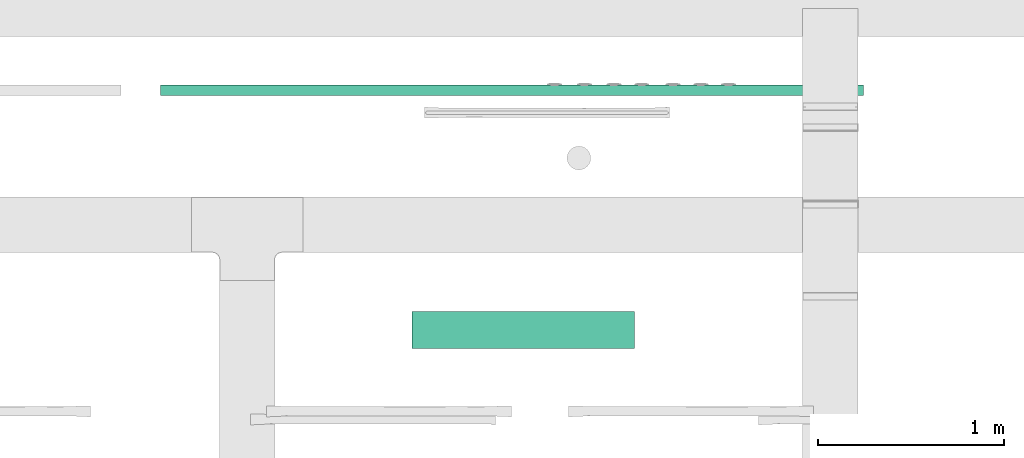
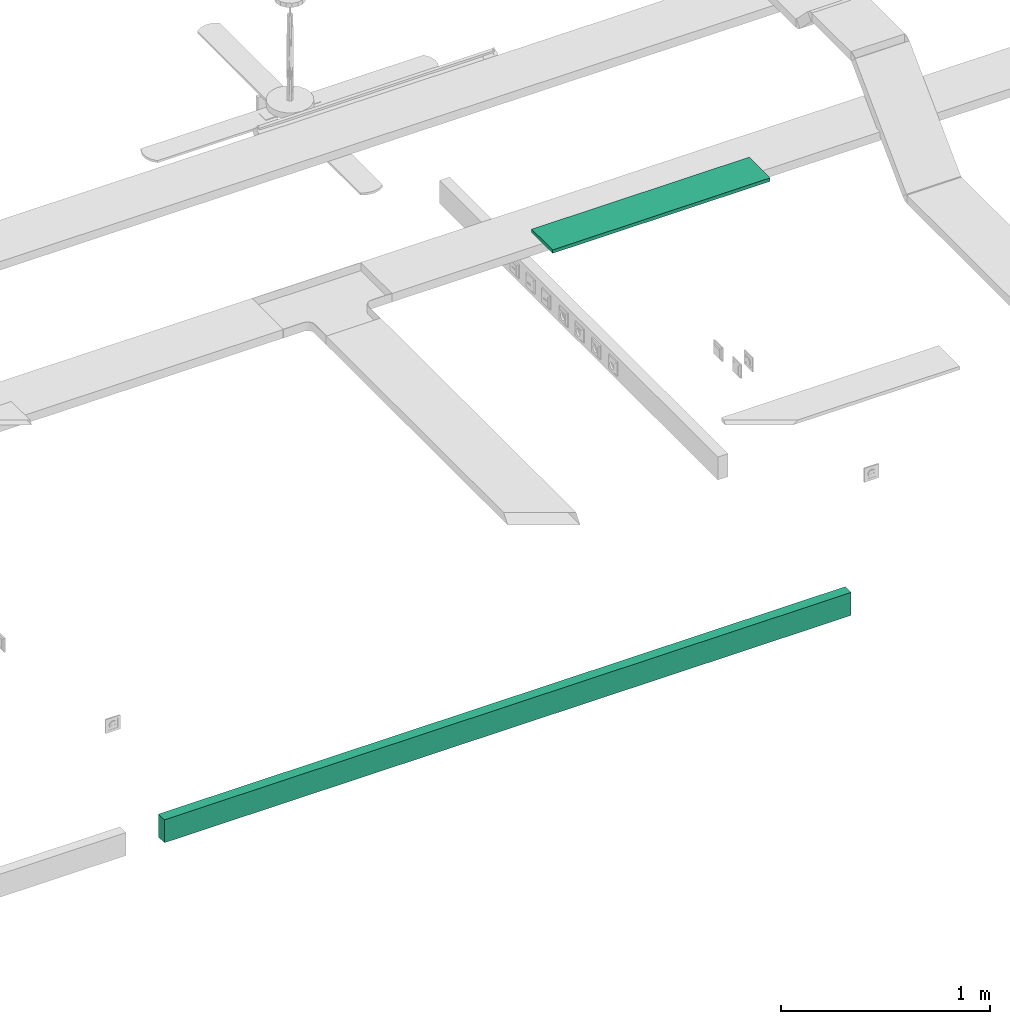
# One storey, part 16 of 153: 1 flow segment, 1 flow terminal.
"""IFC2X3 building model written with IfcOpenShell, lengths in metres."""

from ifc_helpers import new_model, entity, si_unit, converted_unit, derived_unit, direction, frame, origin, origin_2d_with_axis, place, context, subcontext, project, spatial, rectangle, extrude, source, transform, mapped, type_object, type_shapes, element, save


model = new_model("IFC2X3")

# Units and contexts
model_context = context("Model", 3, precision=1e-05, world=origin(), true_north=direction((6.12303176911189e-17, 1.0)))
body_context = subcontext(model_context, "Body", "Model", "MODEL_VIEW")
ifc_project = project(units=[si_unit("LENGTHUNIT", "METRE"), si_unit("AREAUNIT", "SQUARE_METRE"), si_unit("VOLUMEUNIT", "CUBIC_METRE"), converted_unit("PLANEANGLEUNIT", "DEGREE", entity("IfcRatioMeasure", 0.0174532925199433), si_unit("PLANEANGLEUNIT", "RADIAN"), dimensions=[0, 0, 0, 0, 0, 0, 0]), si_unit("MASSUNIT", "GRAM", prefix="KILO"), derived_unit("MASSDENSITYUNIT", [(si_unit("MASSUNIT", "GRAM", prefix="KILO"), 1), (si_unit("LENGTHUNIT", "METRE"), -3)]), si_unit("TIMEUNIT", "SECOND"), si_unit("FREQUENCYUNIT", "HERTZ"), si_unit("THERMODYNAMICTEMPERATUREUNIT", "DEGREE_CELSIUS"), derived_unit("THERMALTRANSMITTANCEUNIT", [(si_unit("MASSUNIT", "GRAM", prefix="KILO"), 1), (si_unit("THERMODYNAMICTEMPERATUREUNIT", "KELVIN"), -1), (si_unit("TIMEUNIT", "SECOND"), -3)]), derived_unit("VOLUMETRICFLOWRATEUNIT", [(si_unit("LENGTHUNIT", "METRE"), 3), (si_unit("TIMEUNIT", "SECOND"), -1)]), si_unit("ELECTRICCURRENTUNIT", "AMPERE"), si_unit("ELECTRICVOLTAGEUNIT", "VOLT"), si_unit("POWERUNIT", "WATT"), si_unit("FORCEUNIT", "NEWTON"), si_unit("ILLUMINANCEUNIT", "LUX"), si_unit("LUMINOUSFLUXUNIT", "LUMEN"), si_unit("LUMINOUSINTENSITYUNIT", "CANDELA"), derived_unit("USERDEFINED", [(si_unit("MASSUNIT", "GRAM", prefix="KILO"), -1), (si_unit("LENGTHUNIT", "METRE"), -2), (si_unit("TIMEUNIT", "SECOND"), 3), (si_unit("LUMINOUSFLUXUNIT", "LUMEN"), 1)]), derived_unit("LINEARVELOCITYUNIT", [(si_unit("LENGTHUNIT", "METRE"), 1), (si_unit("TIMEUNIT", "SECOND"), -1)]), si_unit("PRESSUREUNIT", "PASCAL"), derived_unit("USERDEFINED", [(si_unit("LENGTHUNIT", "METRE"), -2), (si_unit("MASSUNIT", "GRAM", prefix="KILO"), 1), (si_unit("TIMEUNIT", "SECOND"), -2)])], contexts=[model_context])

# Site, building, storey
site_placement = place(None, origin())
site = spatial("IfcSite", under=ifc_project, at=site_placement, Name="Default", CompositionType="ELEMENT")
building_placement = place(site_placement, origin())
building = spatial("IfcBuilding", under=site, at=building_placement, CompositionType="ELEMENT")
storey_placement = place(building_placement, frame((0.0, 0.0, -4.62)))
storey = spatial("IfcBuildingStorey", under=building, at=storey_placement, Name="S02", CompositionType="ELEMENT", Elevation=-4.62)

# Flow segment
cable_carrier_segment_type = type_object("IfcCableCarrierSegmentType", Name="Cable Tray with Fittings:Goulottes de câbles indéfini_Goulottes de câbles", PredefinedType="NOTDEFINED")
flow_segment_placement = place(storey_placement, origin())
element("IfcFlowSegment", 1, at=flow_segment_placement, inside=storey, type_object=cable_carrier_segment_type, Name="Cable Tray with Fittings:Goulottes de câbles indéfini_Goulottes de câbles", ObjectType="Cable Tray with Fittings:Goulottes de câbles indéfini_Goulottes de câbles", context=body_context, shape_type="SweptSolid", body=[
    extrude(rectangle(XDim=3.78702878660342, YDim=0.0559999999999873, at=origin_2d_with_axis()), frame((55.4851616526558, -189.141069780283, 0.365999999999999), z_axis=(0.0, 0.0, 1.0), x_axis=(-1.0, 0.0, 0.0)), (0.0, 0.0, 1.0), 0.134),
])

# Flow terminal
light_fixture_type = type_object("IfcLightFixtureType", Name="B_Réglete étanche", PredefinedType="NOTDEFINED")
shared_shape = source(origin(), body_context, "Body", "SweptSolid", [
    extrude(rectangle(XDim=0.199999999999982, YDim=1.2, at=origin_2d_with_axis()), frame((0.0, 0.0, 0.0), z_axis=(0.0, 0.0, 1.0), x_axis=(0.0, 1.0, 0.0)), (0.0, 0.0, 1.0), 0.02),
])
type_shapes(light_fixture_type, [shared_shape])
flow_terminal_placement = place(storey_placement, frame((55.5456087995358, -190.432084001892, 4.175), z_axis=(0.0, 0.0, -1.0), x_axis=(-1.0, 0.0, 0.0)))
element("IfcFlowTerminal", 2, at=flow_terminal_placement, inside=storey, type_object=light_fixture_type, Name="II_PREF_Type B Réglette étanche:B_Réglete étanche", ObjectType="II_PREF_Type B Réglette étanche:B_Réglete étanche", context=body_context, shape_type="MappedRepresentation", body=[
    mapped(shared_shape, transform((0.0, 0.0, 0.0), scale=1.0)),
])

save(model, "model.ifc")
